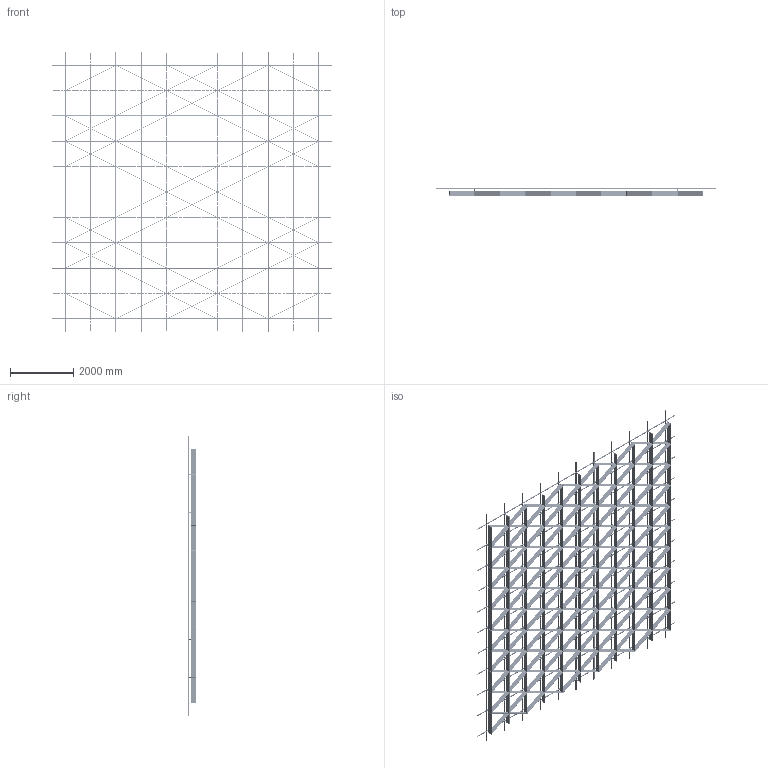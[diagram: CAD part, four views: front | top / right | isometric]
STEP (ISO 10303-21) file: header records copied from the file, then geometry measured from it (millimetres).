
FILE_DESCRIPTION (( 'STEP AP214' ), '1' );
FILE_NAME ('OPT_Var7.STEP', '2024-04-26T06:41:05', ( '' ), ( '' ), 'SwSTEP 2.0', 'SolidWorks 2020', '' );
FILE_SCHEMA (( 'AUTOMOTIVE_DESIGN' ));
Length unit declared in the file: millimetre
Products named in the file (5): Ñèñòåìà â çîíå 8000õ8000; SS.SEMA.2400 - Ñèìà-ïðîôèëü; OPT_Var7; SS.SEMA.2400 - Ñèìà-ïðîôèëü — îáðåçàí 1600; Varp7
Assembly tree (90 placements, depth 3):
  OPT_Var7
    Ñèñòåìà â çîíå 8000õ8000
      SS.SEMA.2400 - Ñèìà-ïðîôèëü  x66
      SS.SEMA.2400 - Ñèìà-ïðîôèëü — îáðåçàí 1600  x22
    Varp7
Bounding box: 8800 x 253 x 8800 mm (x, y, z)
Volume: 319164391.3 mm3; surface area: 116959331.2 mm2
Topology: 907 solids, 907 shells, 21666 faces, 58148 edges, 38296 vertices
Faces by surface type: cylinder 12866, plane 8800
Entity records: 151312 total; most frequent: CARTESIAN_POINT 46552, ORIENTED_EDGE 23144, DIRECTION 12686, EDGE_CURVE 11572, B_SPLINE_CURVE_WITH_KNOTS 8568, VERTEX_POINT 7704, AXIS2_PLACEMENT_3D 6094, EDGE_LOOP 5672
